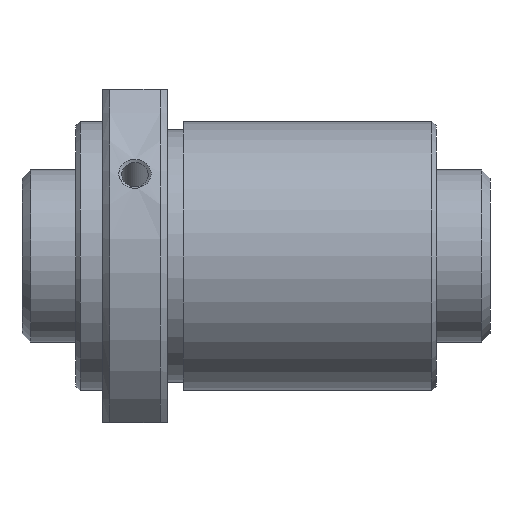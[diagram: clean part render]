
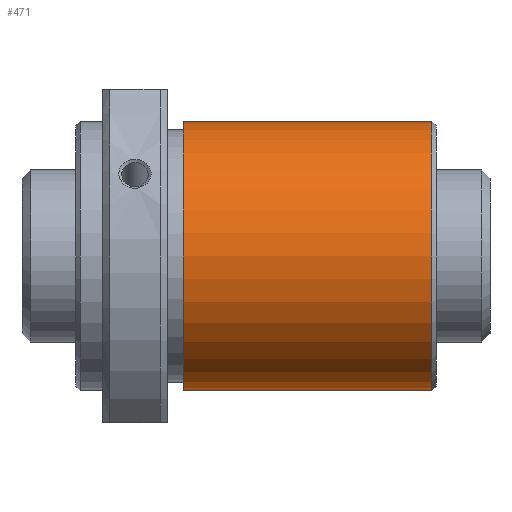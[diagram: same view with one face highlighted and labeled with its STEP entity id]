
A CAD part, front view. The second image highlights one B-rep face of the part: STEP entity #471.
In plain terms, the highlighted cylindrical face has radius 25 mm (diameter 50 mm), a full revolution.
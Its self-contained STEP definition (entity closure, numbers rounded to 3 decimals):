
#68=CIRCLE('',#539,25.);
#69=CIRCLE('',#541,25.);
#119=ORIENTED_EDGE('',*,*,#220,.T.);
#120=ORIENTED_EDGE('',*,*,#219,.F.);
#219=EDGE_CURVE('',#270,#270,#68,.T.);
#220=EDGE_CURVE('',#271,#271,#69,.T.);
#270=VERTEX_POINT('',#818);
#271=VERTEX_POINT('',#821);
#327=EDGE_LOOP('',(#119));
#328=EDGE_LOOP('',(#120));
#395=FACE_BOUND('',#327,.T.);
#396=FACE_BOUND('',#328,.T.);
#452=CYLINDRICAL_SURFACE('',#540,25.);
#471=ADVANCED_FACE('',(#395,#396),#452,.T.);
#539=AXIS2_PLACEMENT_3D('',#817,#632,#633);
#540=AXIS2_PLACEMENT_3D('',#819,#634,#635);
#541=AXIS2_PLACEMENT_3D('',#820,#636,#637);
#632=DIRECTION('',(1.,0.,0.));
#633=DIRECTION('',(0.,0.,-1.));
#634=DIRECTION('',(1.,0.,0.));
#635=DIRECTION('',(0.,0.,-1.));
#636=DIRECTION('',(1.,0.,0.));
#637=DIRECTION('',(0.,0.,-1.));
#817=CARTESIAN_POINT('',(66.167,0.,0.));
#818=CARTESIAN_POINT('',(66.167,0.,-25.));
#819=CARTESIAN_POINT('',(67.,0.,0.));
#820=CARTESIAN_POINT('',(20.,0.,0.));
#821=CARTESIAN_POINT('',(20.,0.,-25.));
